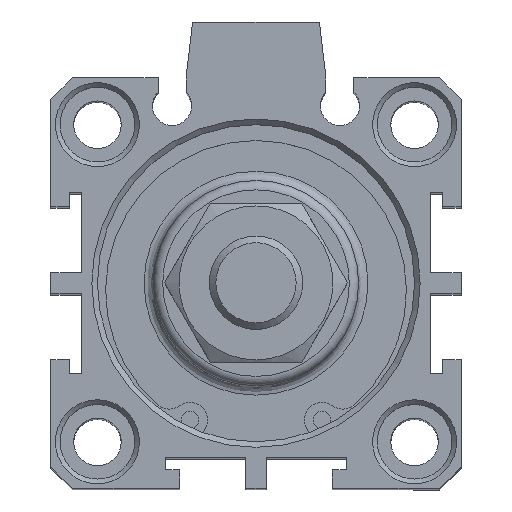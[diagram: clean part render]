
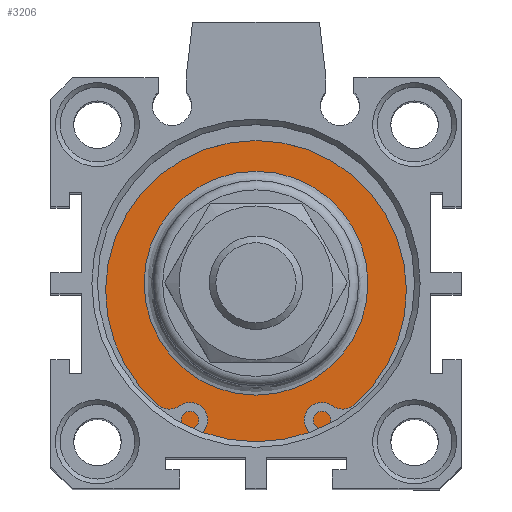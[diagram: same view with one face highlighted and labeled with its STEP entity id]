
A CAD part, top view. The second image highlights one B-rep face of the part: STEP entity #3206.
In plain terms, the highlighted planar face has unit normal (0, 0, 1).
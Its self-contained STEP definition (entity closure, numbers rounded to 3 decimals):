
#3155=CARTESIAN_POINT('',(2.273,12.598,95.8));
#3156=VERTEX_POINT('',#3155);
#3157=CARTESIAN_POINT('',(2.273,0.598,95.8));
#3158=DIRECTION('',(0.0,0.0,1.0));
#3159=DIRECTION('',(0.0,-1.0,0.0));
#3160=AXIS2_PLACEMENT_3D('',#3157,#3158,#3159);
#3161=CIRCLE('',#3160,12.);
#3162=EDGE_CURVE('',#3156,#3156,#3161,.T.);
#3187=CARTESIAN_POINT('',(2.273,14.598,95.8));
#3188=DIRECTION('',(0.0,0.0,1.0));
#3189=DIRECTION('',(1.0,0.0,0.0));
#3190=AXIS2_PLACEMENT_3D('',#3187,#3188,#3189);
#3191=PLANE('',#3190);
#3192=CARTESIAN_POINT('',(2.273,17.598,95.8));
#3193=VERTEX_POINT('',#3192);
#3194=CARTESIAN_POINT('',(2.273,0.598,95.8));
#3195=DIRECTION('',(0.0,0.0,-1.0));
#3196=DIRECTION('',(0.0,1.0,0.0));
#3197=AXIS2_PLACEMENT_3D('',#3194,#3195,#3196);
#3198=CIRCLE('',#3197,17.);
#3199=EDGE_CURVE('',#3193,#3193,#3198,.T.);
#3200=ORIENTED_EDGE('',*,*,#3199,.F.);
#3201=EDGE_LOOP('',(#3200));
#3202=FACE_OUTER_BOUND('',#3201,.T.);
#3203=ORIENTED_EDGE('',*,*,#3162,.F.);
#3204=EDGE_LOOP('',(#3203));
#3205=FACE_BOUND('',#3204,.T.);
#3206=ADVANCED_FACE('',(#3202,#3205),#3191,.T.);
